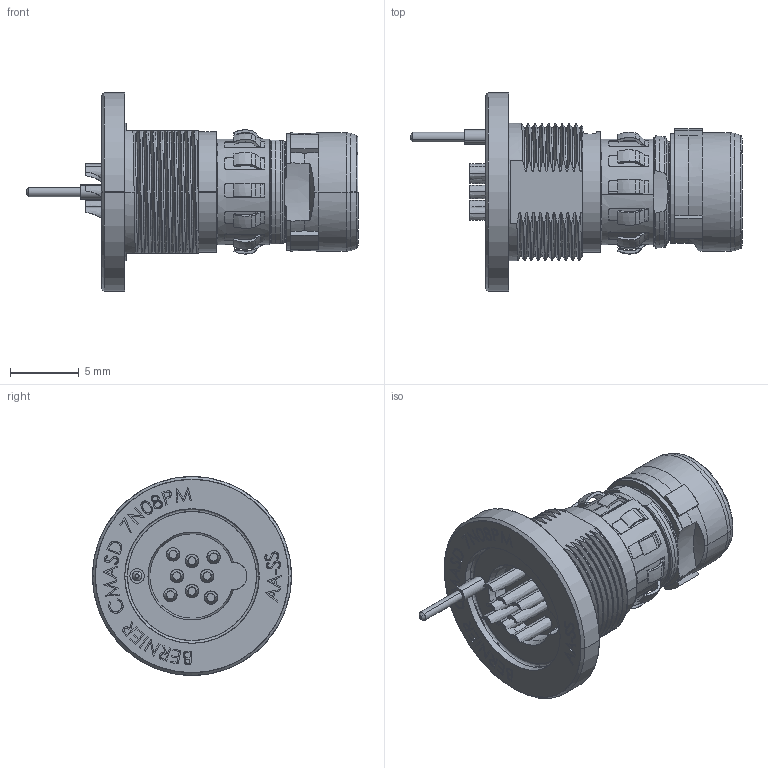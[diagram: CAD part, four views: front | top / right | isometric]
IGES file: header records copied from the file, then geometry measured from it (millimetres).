
Start section: SolidWorks IGES file using analytic representation for surfaces
Global section: file name: C:\Users\dmt\Desktop\CMASD 7N08.IGS; native system: SolidWorks 2016; preprocessor: SolidWorks 2016; author: dmt; date: 170309.114628; units: millimetre
Bounding box: 24.2 x 14.5 x 14.5 mm (x, y, z)
Surface area: 1242.3 mm2 (no closed solid volume)
Topology: 0 solids, 0 shells, 1016 faces, 8101 edges, 8101 vertices
Faces by surface type: bspline 717, revolution 299
